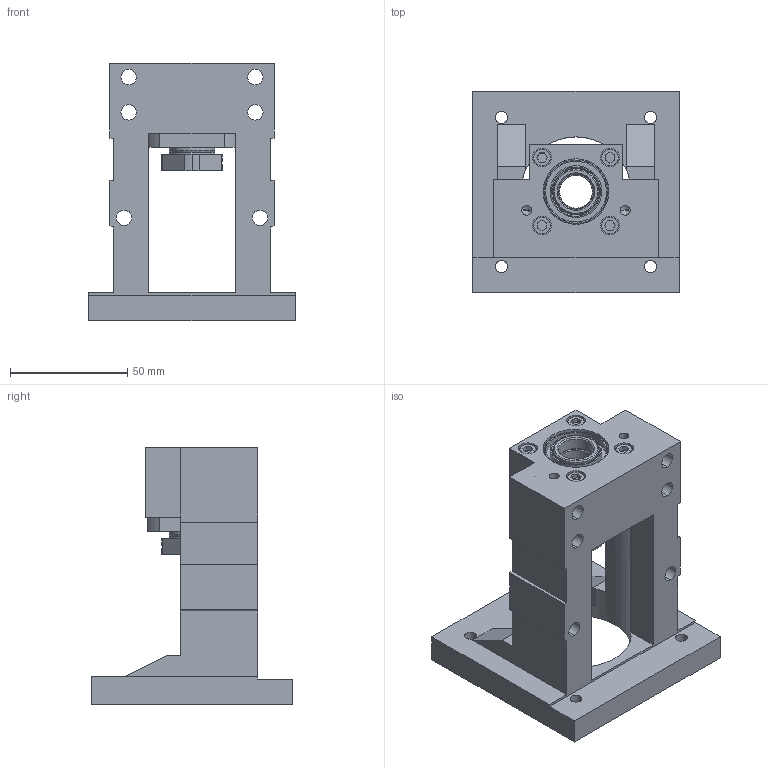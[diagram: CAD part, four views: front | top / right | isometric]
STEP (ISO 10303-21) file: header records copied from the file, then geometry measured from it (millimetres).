
FILE_DESCRIPTION (( 'STEP AP203' ), '1' );
FILE_NAME ('MBCB15M-E.STEP', '2023-05-29T05:45:36', ( '' ), ( '' ), 'SwSTEP 2.0', 'SolidWorks 2018', '' );
FILE_SCHEMA (( 'CONFIG_CONTROL_DESIGN' ));
Length unit declared in the file: millimetre
Products named in the file (1): MBCB15M-E
Bounding box: 88 x 86 x 110 mm (x, y, z)
Volume: 188978.5 mm3; surface area: 80949.4 mm2
Topology: 39 solids, 40 shells, 557 faces, 1374 edges, 868 vertices
Faces by surface type: cylinder 224, plane 141, torus 104, cone 44, sphere 44
Entity records: 18873 total; most frequent: CARTESIAN_POINT 5768, DIRECTION 2900, ORIENTED_EDGE 2520, EDGE_CURVE 1260, AXIS2_PLACEMENT_3D 1202, VERTEX_POINT 802, EDGE_LOOP 696, CIRCLE 644
